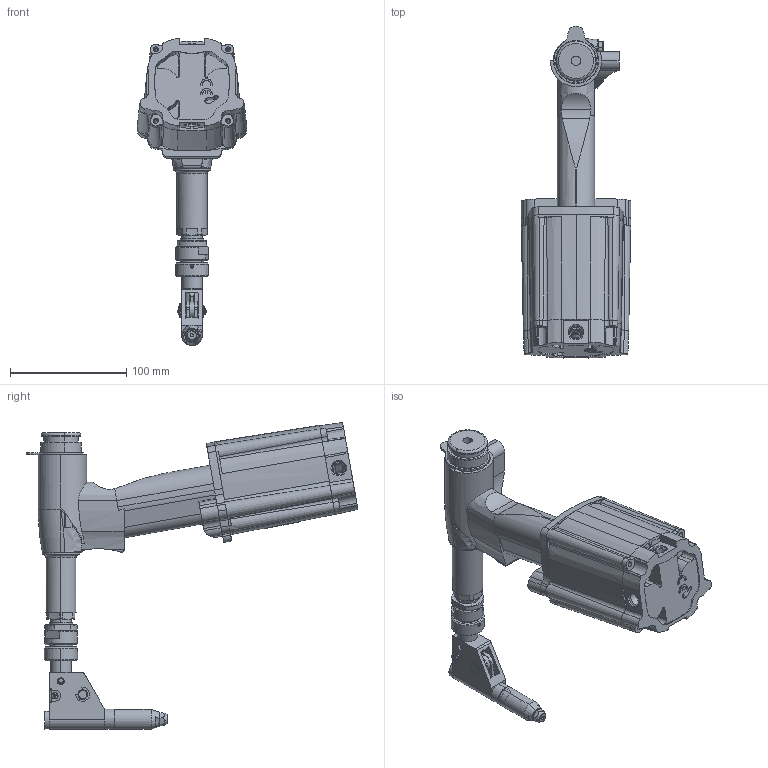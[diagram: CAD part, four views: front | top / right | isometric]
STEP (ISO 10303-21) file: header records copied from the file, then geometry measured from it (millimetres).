
FILE_DESCRIPTION (( 'STEP AP214' ), '1' );
FILE_NAME ('AR2000A-90.STEP', '2025-01-22T02:16:38', ( '' ), ( '' ), 'SwSTEP 2.0', 'SolidWorks 2024', '' );
FILE_SCHEMA (( 'AUTOMOTIVE_DESIGN' ));
Length unit declared in the file: millimetre
Products named in the file (1): AR2000A-90
Bounding box: 94 x 285.26 x 263.83 mm (x, y, z)
Volume: 677960 mm3; surface area: 262059 mm2
Topology: 41 solids, 41 shells, 1778 faces, 4448 edges, 2835 vertices
Faces by surface type: cylinder 588, plane 545, cone 401, bspline 185, torus 55, sphere 4
Entity records: 176635 total; most frequent: CARTESIAN_POINT 115842, ORIENTED_EDGE 8872, DIRECTION 8705, EDGE_CURVE 4436, AXIS2_PLACEMENT_3D 3481, VERTEX_POINT 2835, EDGE_LOOP 1981, CIRCLE 1887
